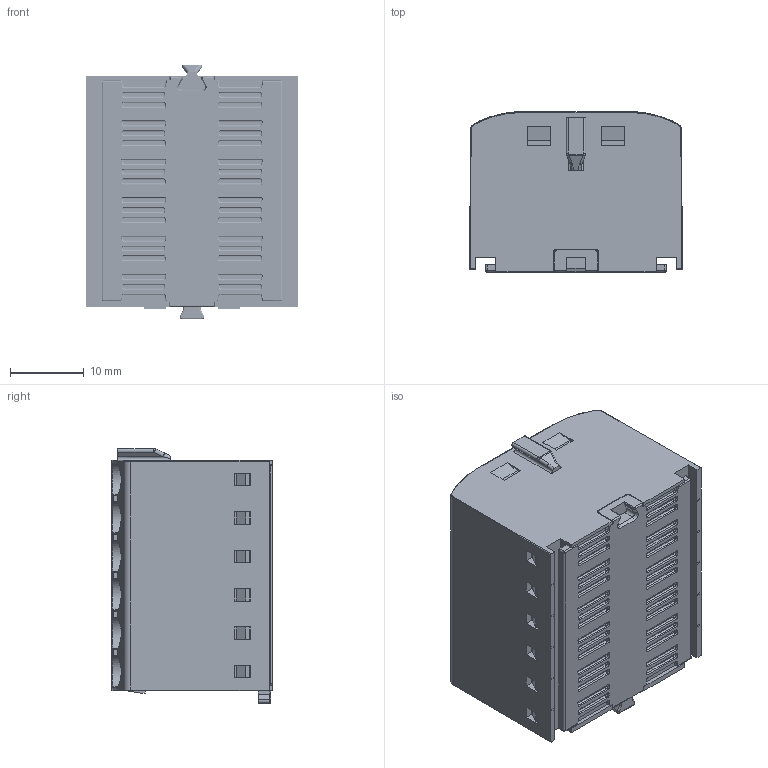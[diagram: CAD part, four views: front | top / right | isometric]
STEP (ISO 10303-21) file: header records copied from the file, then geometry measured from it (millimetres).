
FILE_DESCRIPTION((''),'2;1');
FILE_NAME('JUT15-12X2_5_ASSY','2024-12-30T11:09:19',('Administrator'),(''),'CREO PARAMETRIC BY PTC INC, 2018050','CREO PARAMETRIC BY PTC INC, 2018050','');
FILE_SCHEMA(('CONFIG_CONTROL_DESIGN'));
Length unit declared in the file: millimetre
Products named in the file (1): JUT15-12X2_5_ASSY
Bounding box: 28.8 x 21.7 x 34.5 mm (x, y, z)
Volume: 14992.7 mm3; surface area: 14473.3 mm2
Topology: 1 solids, 22 shells, 5823 faces, 15450 edges, 9162 vertices
Faces by surface type: plane 2488, cylinder 2078, sphere 596, bspline 309, torus 252, cone 76, extrusion 24
Entity records: 189306 total; most frequent: CARTESIAN_POINT 49891, ORIENTED_EDGE 29804, DIRECTION 28513, EDGE_CURVE 14902, AXIS2_PLACEMENT_3D 9818, VERTEX_POINT 9162, VECTOR 8877, LINE 8853
